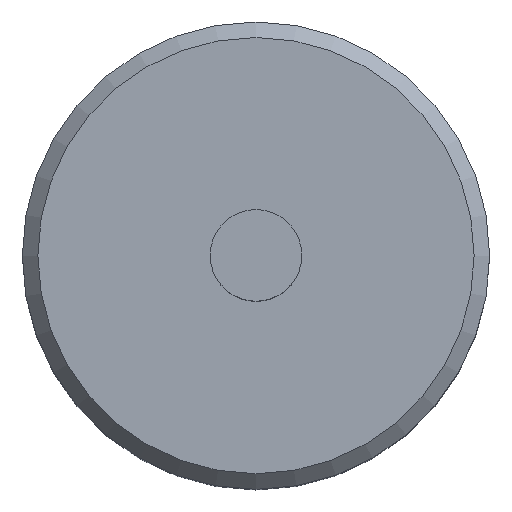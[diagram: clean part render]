
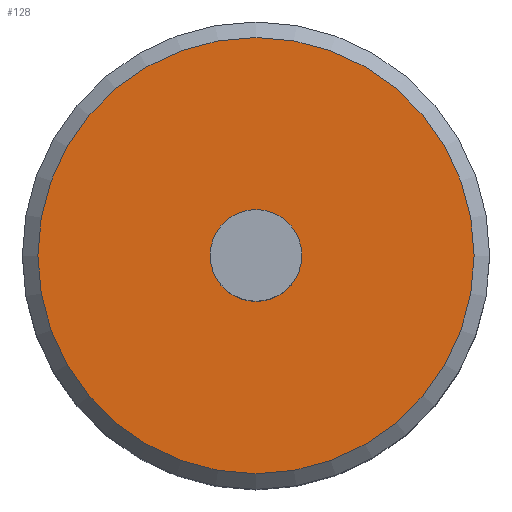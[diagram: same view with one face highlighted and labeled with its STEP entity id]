
A CAD part, top view. The second image highlights one B-rep face of the part: STEP entity #128.
In plain terms, the highlighted planar face has unit normal (0, 0, 1).
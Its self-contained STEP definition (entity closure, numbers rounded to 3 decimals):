
#17=FACE_BOUND('',#44,.T.);
#20=PLANE('',#159);
#31=FACE_OUTER_BOUND('',#43,.T.);
#43=EDGE_LOOP('',(#110));
#44=EDGE_LOOP('',(#111));
#63=CIRCLE('',#156,14.);
#65=CIRCLE('',#160,2.942);
#72=VERTEX_POINT('',#228);
#74=VERTEX_POINT('',#236);
#83=EDGE_CURVE('',#72,#72,#63,.T.);
#87=EDGE_CURVE('',#74,#74,#65,.T.);
#110=ORIENTED_EDGE('',*,*,#83,.F.);
#111=ORIENTED_EDGE('',*,*,#87,.T.);
#128=ADVANCED_FACE('',(#31,#17),#20,.T.);
#156=AXIS2_PLACEMENT_3D('',#229,#189,#190);
#159=AXIS2_PLACEMENT_3D('',#235,#197,#198);
#160=AXIS2_PLACEMENT_3D('',#237,#199,#200);
#189=DIRECTION('center_axis',(0.,0.,-1.));
#190=DIRECTION('ref_axis',(1.,0.,0.));
#197=DIRECTION('center_axis',(0.,0.,1.));
#198=DIRECTION('ref_axis',(1.,0.,0.));
#199=DIRECTION('center_axis',(0.,0.,-1.));
#200=DIRECTION('ref_axis',(-1.,0.,0.));
#228=CARTESIAN_POINT('',(-14.,0.,25.));
#229=CARTESIAN_POINT('Origin',(0.,0.,25.));
#235=CARTESIAN_POINT('Origin',(0.,0.,25.));
#236=CARTESIAN_POINT('',(2.942,0.,25.));
#237=CARTESIAN_POINT('Origin',(0.,0.,25.));
